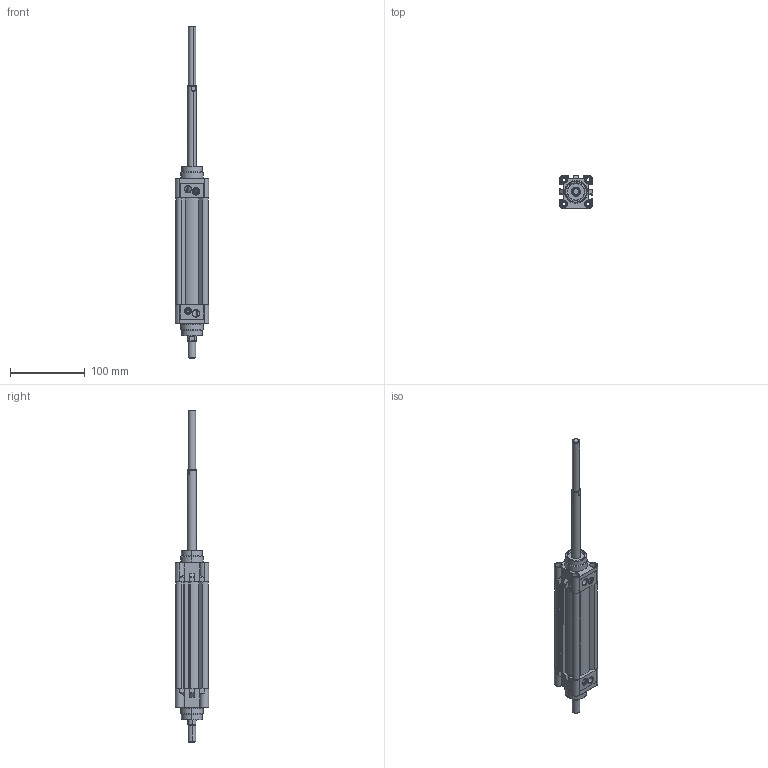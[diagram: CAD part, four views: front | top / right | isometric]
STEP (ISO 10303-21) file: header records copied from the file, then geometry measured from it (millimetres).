
FILE_DESCRIPTION (( 'STEP AP203' ), '1' );
FILE_NAME ('KDNT32X100CIFTMILLI-STROK AYARLI-CYLINDER.STEP', '2015-03-24T07:49:03', ( 'user' ), ( '' ), 'SwSTEP 2.0', 'SolidWorks 2013', '' );
FILE_SCHEMA (( 'CONFIG_CONTROL_DESIGN' ));
Length unit declared in the file: millimetre
Products named in the file (6): KDNT Piston Mili 32X100; KDNT 32x100 BORU; SAPLAMALI M尳 STROK AYARLI  32x100; KDNT32X100CIFTMILLI-STROK AYARLI-CYLINDER; 烰 KAPAK; ORTA PÝSTON ÇÝFT MÝLLÝ
Assembly tree (6 placements, depth 2):
  KDNT32X100CIFTMILLI-STROK AYARLI-CYLINDER
    烰 KAPAK  x2
    ORTA PÝSTON ÇÝFT MÝLLÝ
    KDNT Piston Mili 32X100
    KDNT 32x100 BORU
    SAPLAMALI M尳 STROK AYARLI  32x100
Bounding box: 44.45 x 44.65 x 443 mm (x, y, z)
Volume: 216535.8 mm3; surface area: 114346.5 mm2
Topology: 8 solids, 10 shells, 777 faces, 1934 edges, 1212 vertices
Faces by surface type: cylinder 285, plane 206, cone 150, bspline 136
Entity records: 20809 total; most frequent: CARTESIAN_POINT 8857, ORIENTED_EDGE 2434, DIRECTION 2272, EDGE_CURVE 1217, AXIS2_PLACEMENT_3D 881, VERTEX_POINT 772, EDGE_LOOP 561, LINE 510
